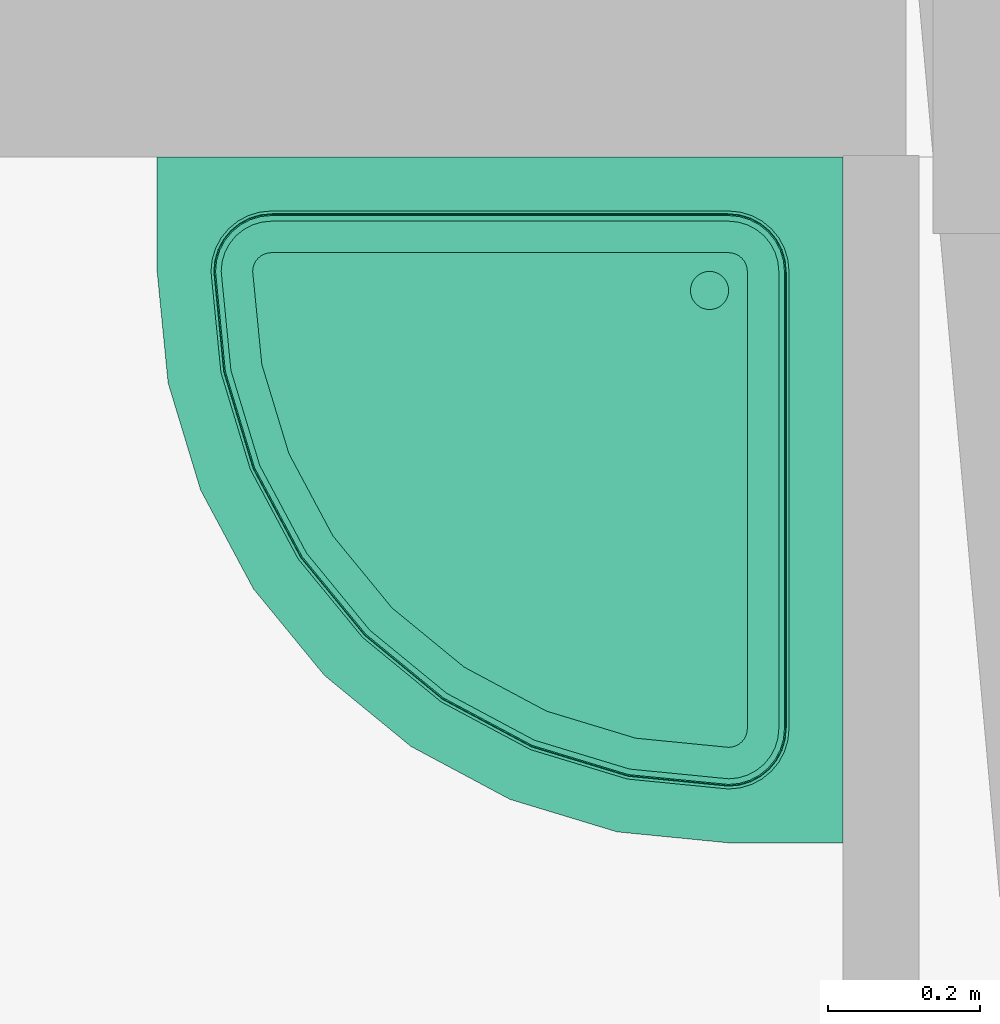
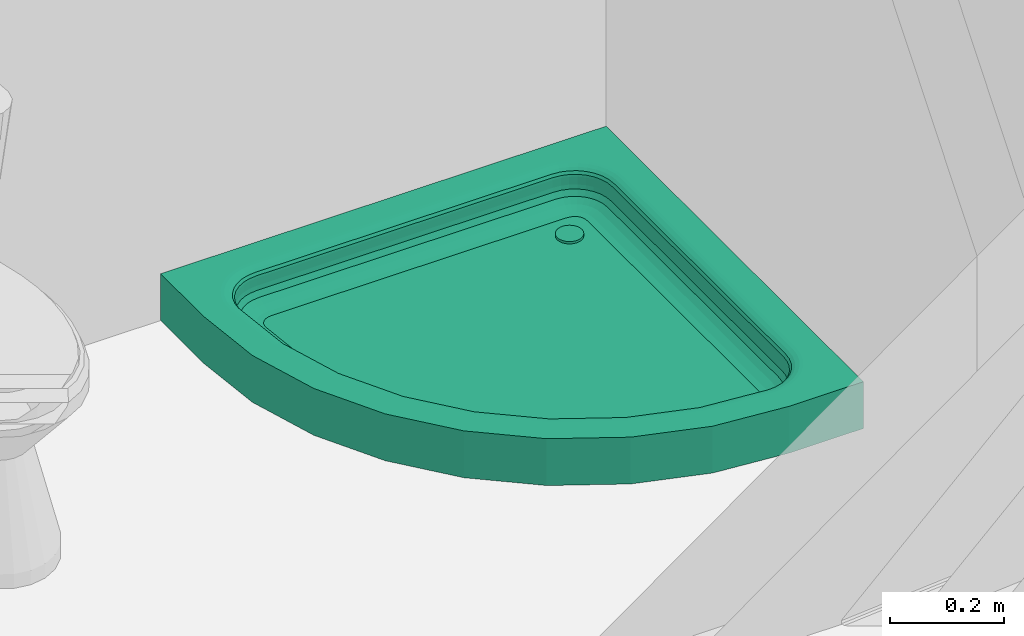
# One storey, part 30 of 36: 1 flow terminal.
"""IFC2X3 building model written with IfcOpenShell, lengths in millimetres."""

from ifc_helpers import new_model, entity, si_unit, converted_unit, money_unit, direction, frame, origin_with_axes, place, context, subcontext, project, spatial, open_shell, faceted_brep, surface_model, material, material_list, type_object, element, save


model = new_model("IFC2X3")

# Units and contexts
model_context = context("Model", 3, precision=1e-05, world=origin_with_axes(), true_north=direction((0.0, 1.0)))
body_context = subcontext(model_context, "Body", "Model", "MODEL_VIEW")
ifc_project = project(units=[si_unit("LENGTHUNIT", "METRE", prefix="MILLI"), si_unit("AREAUNIT", "SQUARE_METRE"), si_unit("VOLUMEUNIT", "CUBIC_METRE"), converted_unit("PLANEANGLEUNIT", "DEGREE", entity("IfcPlaneAngleMeasure", 0.0174532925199), si_unit("PLANEANGLEUNIT", "RADIAN"), dimensions=[0, 0, 0, 0, 0, 0, 0]), si_unit("SOLIDANGLEUNIT", "STERADIAN"), money_unit("USD"), converted_unit("TIMEUNIT", "Year", entity("IfcTimeMeasure", 31556926.0), si_unit("TIMEUNIT", "SECOND"), dimensions=[0, 0, 0, 0, 0, 0, 0]), si_unit("MASSUNIT", "GRAM"), si_unit("THERMODYNAMICTEMPERATUREUNIT", "DEGREE_CELSIUS"), si_unit("LUMINOUSINTENSITYUNIT", "LUMEN")], contexts=[model_context])

# Site, building, storey
site_placement = place(None, origin_with_axes())
site = spatial("IfcSite", under=ifc_project, at=site_placement, Name="Site", CompositionType="ELEMENT")
building_placement = place(site_placement, origin_with_axes())
building = spatial("IfcBuilding", under=site, at=building_placement, Name="Building", CompositionType="ELEMENT")
storey_placement = place(building_placement, frame((0.0, 0.0, -3400.0), z_axis=(0.0, 0.0, 1.0), x_axis=(1.0, 0.0, 0.0)))
storey = spatial("IfcBuildingStorey", under=building, at=storey_placement, Name="1KORRUS", CompositionType="ELEMENT", Elevation=-3400.0)

# Flow terminal
ifc_material = material(Name="Background")
ifc_material_list = material_list([ifc_material])
sanitary_terminal_type = type_object("IfcSanitaryTerminalType", Name="Shower Tray 19", PredefinedType="SHOWER")
flow_terminal_placement = place(storey_placement, frame((-54855.1823813, -5039.6041088, 0.0), z_axis=(0.0, 0.0, 1.0), x_axis=(-1.0, 0.0, 0.0)))
element("IfcFlowTerminal", 1, at=flow_terminal_placement, inside=storey, type_object=sanitary_terminal_type, material=ifc_material_list, Name="FU - 005", context=body_context, shape_type="SurfaceModel", body=[
    faceted_brep([(199.62, 170.659, 33.333), (198.492, 166.449, 33.333), (196.651, 162.5, 33.333), (194.151, 158.93, 33.333), (191.07, 155.849, 33.333), (187.5, 153.349, 33.333), (183.551, 151.508, 33.333), (179.341, 150.38, 33.333), (175.0, 150.0, 33.333), (170.659, 150.38, 33.333), (166.449, 151.508, 33.333), (162.5, 153.349, 33.333), (158.93, 155.849, 33.333), (155.849, 158.93, 33.333), (153.349, 162.5, 33.333), (151.508, 166.449, 33.333), (150.38, 170.659, 33.333), (150.0, 175.0, 33.333), (150.38, 179.341, 33.333), (151.508, 183.551, 33.333), (153.349, 187.5, 33.333), (155.849, 191.07, 33.333), (158.93, 194.151, 33.333), (162.5, 196.651, 33.333), (166.449, 198.492, 33.333), (170.659, 199.62, 33.333), (175.0, 200.0, 33.333), (179.341, 199.62, 33.333), (183.551, 198.492, 33.333), (187.5, 196.651, 33.333), (191.07, 194.151, 33.333), (194.151, 191.07, 33.333), (196.651, 187.5, 33.333), (198.492, 183.551, 33.333), (199.62, 179.341, 33.333), (200.0, 175.0, 33.333), (199.62, 170.659, 38.333), (198.492, 166.449, 38.333), (196.651, 162.5, 38.333), (194.151, 158.93, 38.333), (191.07, 155.849, 38.333), (187.5, 153.349, 38.333), (183.551, 151.508, 38.333), (179.341, 150.38, 38.333), (175.0, 150.0, 38.333), (170.659, 150.38, 38.333), (166.449, 151.508, 38.333), (162.5, 153.349, 38.333), (158.93, 155.849, 38.333), (155.849, 158.93, 38.333), (153.349, 162.5, 38.333), (151.508, 166.449, 38.333), (150.38, 170.659, 38.333), (150.0, 175.0, 38.333), (150.38, 179.341, 38.333), (151.508, 183.551, 38.333), (153.349, 187.5, 38.333), (155.849, 191.07, 38.333), (158.93, 194.151, 38.333), (162.5, 196.651, 38.333), (166.449, 198.492, 38.333), (170.659, 199.62, 38.333), (175.0, 200.0, 38.333), (179.341, 199.62, 38.333), (183.551, 198.492, 38.333), (187.5, 196.651, 38.333), (191.07, 194.151, 38.333), (194.151, 191.07, 38.333), (196.651, 187.5, 38.333), (198.492, 183.551, 38.333), (199.62, 179.341, 38.333), (200.0, 175.0, 38.333)], [[[0, 1, 2, 3, 4, 5, 6, 7, 8, 9, 10, 11, 12, 13, 14, 15, 16, 17, 18, 19, 20, 21, 22, 23, 24, 25, 26, 27, 28, 29, 30, 31, 32, 33, 34, 35]], [[1, 0, 36, 37]], [[2, 1, 37, 38]], [[3, 2, 38, 39]], [[4, 3, 39, 40]], [[5, 4, 40, 41]], [[6, 5, 41, 42]], [[7, 6, 42, 43]], [[8, 7, 43, 44]], [[9, 8, 44, 45]], [[10, 9, 45, 46]], [[11, 10, 46, 47]], [[12, 11, 47, 48]], [[13, 12, 48, 49]], [[14, 13, 49, 50]], [[15, 14, 50, 51]], [[16, 15, 51, 52]], [[17, 16, 52, 53]], [[18, 17, 53, 54]], [[19, 18, 54, 55]], [[20, 19, 55, 56]], [[21, 20, 56, 57]], [[22, 21, 57, 58]], [[23, 22, 58, 59]], [[24, 23, 59, 60]], [[25, 24, 60, 61]], [[26, 25, 61, 62]], [[27, 26, 62, 63]], [[28, 27, 63, 64]], [[29, 28, 64, 65]], [[30, 29, 65, 66]], [[31, 30, 66, 67]], [[32, 31, 67, 68]], [[33, 32, 68, 69]], [[34, 33, 69, 70]], [[35, 34, 70, 71]], [[0, 35, 71, 36]], [[36, 71, 70, 69, 68, 67, 66, 65, 64, 63, 62, 61, 60, 59, 58, 57, 56, 55, 54, 53, 52, 51, 50, 49, 48, 47, 46, 45, 44, 43, 42, 41, 40, 39, 38, 37]]]),
    faceted_brep([(153.685, 125.0, 33.333), (153.046, 112.01, 34.346), (746.954, 112.01, 34.346), (746.315, 125.0, 33.333), (151.818, 87.0, 36.0), (150.0, 50.0, 100.0), (150.319, 56.495, 99.493), (150.707, 64.394, 97.038), (151.01, 70.557, 92.929), (151.191, 74.24, 87.663), (151.228, 75.0, 83.333), (151.228, 75.0, 66.667), (151.303, 76.519, 58.007), (151.665, 83.886, 47.475), (152.27, 96.212, 39.257), (747.73, 96.212, 39.257), (757.353, 113.034, 34.346), (754.806, 125.836, 33.333), (748.182, 87.0, 36.0), (750.0, 50.0, 100.0), (749.681, 56.495, 99.493), (749.293, 64.394, 97.038), (748.99, 70.557, 92.929), (748.809, 74.24, 87.663), (748.772, 75.0, 83.333), (748.772, 75.0, 66.667), (748.697, 76.519, 58.007), (748.335, 83.886, 47.475), (760.45, 97.465, 39.257), (764.423, 115.179, 34.346), (759.428, 127.238, 33.333), (762.256, 88.386, 36.0), (769.509, 51.921, 100.0), (768.236, 58.322, 99.493), (766.687, 66.107, 97.038), (765.479, 72.181, 92.929), (764.757, 75.811, 87.663), (764.608, 76.56, 83.333), (764.608, 76.56, 66.667), (764.31, 78.057, 58.007), (762.866, 85.317, 47.475), (770.498, 100.513, 39.257), (770.939, 118.662, 34.346), (763.688, 129.515, 33.333), (774.041, 91.961, 36.0), (788.268, 57.612, 100.0), (785.771, 63.642, 99.493), (782.733, 70.975, 97.038), (780.363, 76.696, 92.929), (778.947, 80.115, 87.663), (778.655, 80.821, 83.333), (778.655, 80.821, 66.667), (778.071, 82.231, 58.007), (775.238, 89.07, 47.475), (779.759, 105.463, 39.257), (776.651, 123.349, 34.346), (767.421, 132.579, 33.333), (784.901, 97.766, 36.0), (805.557, 66.853, 100.0), (801.931, 72.28, 99.493), (797.521, 78.879, 97.038), (794.081, 84.028, 92.929), (792.025, 87.105, 87.663), (791.601, 87.74, 83.333), (791.601, 87.74, 66.667), (790.753, 89.009, 58.007), (786.64, 95.165, 47.475), (787.876, 112.124, 39.257), (781.338, 129.061, 34.346), (770.485, 136.312, 33.333), (794.421, 105.579, 36.0), (820.711, 79.289, 100.0), (816.096, 83.904, 99.493), (810.483, 89.517, 97.038), (806.104, 93.896, 92.929), (803.487, 96.513, 87.663), (802.947, 97.053, 83.333), (802.947, 97.053, 66.667), (801.868, 98.132, 58.007), (796.634, 103.366, 47.475), (794.537, 120.241, 39.257), (784.821, 135.577, 34.346), (772.762, 140.572, 33.333), (802.234, 115.099, 36.0), (833.147, 94.443, 100.0), (827.72, 98.069, 99.493), (821.121, 102.479, 97.038), (815.972, 105.919, 92.929), (812.895, 107.975, 87.663), (812.26, 108.399, 83.333), (812.26, 108.399, 66.667), (810.991, 109.247, 58.007), (804.835, 113.36, 47.475), (799.487, 129.502, 39.257), (786.966, 142.647, 34.346), (774.164, 145.194, 33.333), (808.039, 125.959, 36.0), (842.388, 111.732, 100.0), (836.358, 114.229, 99.493), (829.025, 117.267, 97.038), (823.304, 119.637, 92.929), (819.885, 121.053, 87.663), (819.179, 121.345, 83.333), (819.179, 121.345, 66.667), (817.769, 121.929, 58.007), (810.93, 124.762, 47.475), (802.535, 139.55, 39.257), (787.69, 150.0, 34.346), (774.637, 150.0, 33.333), (811.614, 137.744, 36.0), (848.079, 130.491, 100.0), (841.678, 131.764, 99.493), (833.893, 133.313, 97.038), (827.819, 134.521, 92.929), (824.189, 135.243, 87.663), (823.44, 135.392, 83.333), (823.44, 135.392, 66.667), (821.943, 135.69, 58.007), (814.683, 137.134, 47.475), (803.564, 150.0, 39.257), (775.437, 274.407, 34.346), (762.635, 271.861, 33.333), (812.821, 150.0, 36.0), (850.0, 150.0, 100.0), (843.474, 150.0, 99.493), (835.536, 150.0, 97.038), (829.344, 150.0, 92.929), (825.643, 150.0, 87.663), (824.879, 150.0, 83.333), (824.879, 150.0, 66.667), (823.353, 150.0, 58.007), (815.95, 150.0, 47.475), (791.006, 277.504, 39.257), (739.149, 394.033, 34.346), (727.089, 389.038, 33.333), (800.085, 279.31, 36.0), (836.55, 286.563, 100.0), (830.149, 285.29, 99.493), (822.364, 283.742, 97.038), (816.29, 282.533, 92.929), (812.66, 281.811, 87.663), (811.911, 281.662, 83.333), (811.911, 281.662, 66.667), (810.414, 281.365, 58.007), (803.154, 279.92, 47.475), (753.815, 400.108, 39.257), (680.22, 504.282, 34.346), (669.367, 497.03, 33.333), (762.367, 403.651, 36.0), (796.716, 417.878, 100.0), (790.686, 415.381, 99.493), (783.353, 412.343, 97.038), (777.632, 409.974, 92.929), (774.212, 408.557, 87.663), (773.507, 408.265, 83.333), (773.507, 408.265, 66.667), (772.097, 407.681, 58.007), (765.258, 404.848, 47.475), (693.419, 513.101, 39.257), (600.915, 600.915, 34.346), (591.685, 591.685, 33.333), (701.115, 518.244, 36.0), (732.029, 538.899, 100.0), (726.602, 535.273, 99.493), (720.003, 530.864, 97.038), (714.854, 527.423, 92.929), (711.776, 525.367, 87.663), (711.141, 524.943, 83.333), (711.141, 524.943, 66.667), (709.872, 524.095, 58.007), (703.717, 519.982, 47.475), (612.14, 612.14, 39.257), (504.282, 680.22, 34.346), (497.03, 669.367, 33.333), (618.685, 618.685, 36.0), (644.975, 644.975, 100.0), (640.36, 640.36, 99.493), (634.747, 634.747, 97.038), (630.368, 630.368, 92.929), (627.752, 627.752, 87.663), (627.212, 627.212, 83.333), (627.212, 627.212, 66.667), (626.132, 626.132, 58.007), (620.898, 620.898, 47.475), (513.101, 693.419, 39.257), (394.033, 739.149, 34.346), (389.038, 727.089, 33.333), (518.244, 701.115, 36.0), (538.899, 732.029, 100.0), (535.273, 726.602, 99.493), (530.864, 720.003, 97.038), (527.423, 714.854, 92.929), (525.367, 711.776, 87.663), (524.943, 711.141, 83.333), (524.943, 711.141, 66.667), (524.095, 709.872, 58.007), (519.982, 703.717, 47.475), (400.108, 753.815, 39.257), (274.407, 775.437, 34.346), (271.861, 762.635, 33.333), (403.651, 762.367, 36.0), (417.878, 796.716, 100.0), (415.381, 790.686, 99.493), (412.343, 783.353, 97.038), (409.974, 777.632, 92.929), (408.557, 774.212, 87.663), (408.265, 773.507, 83.333), (408.265, 773.507, 66.667), (407.681, 772.097, 58.007), (404.848, 765.258, 47.475), (277.504, 791.006, 39.257), (150.0, 787.69, 34.346), (150.0, 774.637, 33.333), (279.31, 800.085, 36.0), (286.563, 836.55, 100.0), (285.29, 830.149, 99.493), (283.742, 822.364, 97.038), (282.533, 816.29, 92.929), (281.811, 812.66, 87.663), (281.662, 811.911, 83.333), (281.662, 811.911, 66.667), (281.365, 810.414, 58.007), (279.92, 803.154, 47.475), (150.0, 803.564, 39.257), (142.647, 786.966, 34.346), (145.194, 774.164, 33.333), (150.0, 812.821, 36.0), (150.0, 850.0, 100.0), (150.0, 843.474, 99.493), (150.0, 835.536, 97.038), (150.0, 829.344, 92.929), (150.0, 825.643, 87.663), (150.0, 824.879, 83.333), (150.0, 824.879, 66.667), (150.0, 823.353, 58.007), (150.0, 815.95, 47.475), (139.55, 802.535, 39.257), (135.577, 784.821, 34.346), (140.572, 772.762, 33.333), (137.744, 811.614, 36.0), (130.491, 848.079, 100.0), (131.764, 841.678, 99.493), (133.313, 833.893, 97.038), (134.521, 827.819, 92.929), (135.243, 824.189, 87.663), (135.392, 823.44, 83.333), (135.392, 823.44, 66.667), (135.69, 821.943, 58.007), (137.134, 814.683, 47.475), (129.502, 799.487, 39.257), (129.061, 781.338, 34.346), (136.312, 770.485, 33.333), (125.959, 808.039, 36.0), (111.732, 842.388, 100.0), (114.229, 836.358, 99.493), (117.267, 829.025, 97.038), (119.637, 823.304, 92.929), (121.053, 819.885, 87.663), (121.345, 819.179, 83.333), (121.345, 819.179, 66.667), (121.929, 817.769, 58.007), (124.762, 810.93, 47.475), (120.241, 794.537, 39.257), (123.349, 776.651, 34.346), (132.579, 767.421, 33.333), (115.099, 802.234, 36.0), (94.443, 833.147, 100.0), (98.069, 827.72, 99.493), (102.479, 821.121, 97.038), (105.919, 815.972, 92.929), (107.975, 812.895, 87.663), (108.399, 812.26, 83.333), (108.399, 812.26, 66.667), (109.247, 810.991, 58.007), (113.36, 804.835, 47.475), (112.124, 787.876, 39.257), (118.662, 770.939, 34.346), (129.515, 763.688, 33.333), (105.579, 794.421, 36.0), (79.289, 820.711, 100.0), (83.904, 816.096, 99.493), (89.517, 810.483, 97.038), (93.896, 806.104, 92.929), (96.513, 803.487, 87.663), (97.053, 802.947, 83.333), (97.053, 802.947, 66.667), (98.132, 801.868, 58.007), (103.366, 796.634, 47.475), (105.463, 779.759, 39.257), (115.179, 764.423, 34.346), (127.238, 759.428, 33.333), (97.766, 784.901, 36.0), (66.853, 805.557, 100.0), (72.28, 801.931, 99.493), (78.879, 797.521, 97.038), (84.028, 794.081, 92.929), (87.105, 792.025, 87.663), (87.74, 791.601, 83.333), (87.74, 791.601, 66.667), (89.009, 790.753, 58.007), (95.165, 786.64, 47.475), (100.513, 770.498, 39.257), (113.034, 757.353, 34.346), (125.836, 754.806, 33.333), (91.961, 774.041, 36.0), (57.612, 788.268, 100.0), (63.642, 785.771, 99.493), (70.975, 782.733, 97.038), (76.696, 780.363, 92.929), (80.115, 778.947, 87.663), (80.821, 778.655, 83.333), (80.821, 778.655, 66.667), (82.231, 778.071, 58.007), (89.07, 775.238, 47.475), (97.465, 760.45, 39.257), (112.01, 746.954, 34.346), (125.0, 746.315, 33.333), (88.386, 762.256, 36.0), (51.921, 769.509, 100.0), (58.322, 768.236, 99.493), (66.107, 766.687, 97.038), (72.181, 765.479, 92.929), (75.811, 764.757, 87.663), (76.56, 764.608, 83.333), (76.56, 764.608, 66.667), (78.057, 764.31, 58.007), (85.317, 762.866, 47.475), (96.212, 747.73, 39.257), (112.01, 153.046, 34.346), (125.0, 153.685, 33.333), (87.0, 748.182, 36.0), (50.0, 750.0, 100.0), (56.495, 749.681, 99.493), (64.394, 749.293, 97.038), (70.557, 748.99, 92.929), (74.24, 748.809, 87.663), (75.0, 748.772, 83.333), (75.0, 748.772, 66.667), (76.519, 748.697, 58.007), (83.886, 748.335, 47.475), (96.212, 152.27, 39.257), (113.034, 142.647, 34.346), (125.836, 145.194, 33.333), (87.0, 151.818, 36.0), (50.0, 150.0, 100.0), (56.495, 150.319, 99.493), (64.394, 150.707, 97.038), (70.557, 151.01, 92.929), (74.24, 151.191, 87.663), (75.0, 151.228, 83.333), (75.0, 151.228, 66.667), (76.519, 151.303, 58.007), (83.886, 151.665, 47.475), (97.465, 139.55, 39.257), (115.179, 135.577, 34.346), (127.238, 140.572, 33.333), (88.386, 137.744, 36.0), (51.921, 130.491, 100.0), (58.322, 131.764, 99.493), (66.107, 133.313, 97.038), (72.181, 134.521, 92.929), (75.811, 135.243, 87.663), (76.56, 135.392, 83.333), (76.56, 135.392, 66.667), (78.057, 135.69, 58.007), (85.317, 137.134, 47.475), (100.513, 129.502, 39.257), (118.662, 129.061, 34.346), (129.515, 136.312, 33.333), (91.961, 125.959, 36.0), (57.612, 111.732, 100.0), (63.642, 114.229, 99.493), (70.975, 117.267, 97.038), (76.696, 119.637, 92.929), (80.115, 121.053, 87.663), (80.821, 121.345, 83.333), (80.821, 121.345, 66.667), (82.231, 121.929, 58.007), (89.07, 124.762, 47.475), (105.463, 120.241, 39.257), (123.349, 123.349, 34.346), (132.579, 132.579, 33.333), (97.766, 115.099, 36.0), (66.853, 94.443, 100.0), (72.28, 98.069, 99.493), (78.879, 102.479, 97.038), (84.028, 105.919, 92.929), (87.105, 107.975, 87.663), (87.74, 108.399, 83.333), (87.74, 108.399, 66.667), (89.009, 109.247, 58.007), (95.165, 113.36, 47.475), (112.124, 112.124, 39.257), (129.061, 118.662, 34.346), (136.312, 129.515, 33.333), (105.579, 105.579, 36.0), (79.289, 79.289, 100.0), (83.904, 83.904, 99.493), (89.517, 89.517, 97.038), (93.896, 93.896, 92.929), (96.513, 96.513, 87.663), (97.053, 97.053, 83.333), (97.053, 97.053, 66.667), (98.132, 98.132, 58.007), (103.366, 103.366, 47.475), (120.241, 105.463, 39.257), (135.577, 115.179, 34.346), (140.572, 127.238, 33.333), (115.099, 97.766, 36.0), (94.443, 66.853, 100.0), (98.069, 72.28, 99.493), (102.479, 78.879, 97.038), (105.919, 84.028, 92.929), (107.975, 87.105, 87.663), (108.399, 87.74, 83.333), (108.399, 87.74, 66.667), (109.247, 89.009, 58.007), (113.36, 95.165, 47.475), (129.502, 100.513, 39.257), (142.647, 113.034, 34.346), (145.194, 125.836, 33.333), (125.959, 91.961, 36.0), (111.732, 57.612, 100.0), (114.229, 63.642, 99.493), (117.267, 70.975, 97.038), (119.637, 76.696, 92.929), (121.053, 80.115, 87.663), (121.345, 80.821, 83.333), (121.345, 80.821, 66.667), (121.929, 82.231, 58.007), (124.762, 89.07, 47.475), (139.55, 97.465, 39.257), (153.046, 112.01, 34.346), (153.685, 125.0, 33.333), (137.744, 88.386, 36.0), (130.491, 51.921, 100.0), (131.764, 58.322, 99.493), (133.313, 66.107, 97.038), (134.521, 72.181, 92.929), (135.243, 75.811, 87.663), (135.392, 76.56, 83.333), (135.392, 76.56, 66.667), (135.69, 78.057, 58.007), (137.134, 85.317, 47.475), (152.27, 96.212, 39.257), (151.665, 83.886, 47.475), (151.303, 76.519, 58.007), (151.228, 75.0, 66.667), (151.228, 75.0, 83.333), (151.191, 74.24, 87.663), (151.01, 70.557, 92.929), (150.707, 64.394, 97.038), (150.319, 56.495, 99.493), (150.0, 50.0, 100.0), (151.818, 87.0, 36.0)], [[[0, 1, 2, 3]], [[0, 4, 5, 6, 7, 8, 9, 10, 11, 12, 13, 14, 1]], [[1, 14, 15, 2]], [[3, 2, 16, 17]], [[4, 0, 3, 18]], [[5, 4, 18, 19]], [[6, 5, 19, 20]], [[7, 6, 20, 21]], [[8, 7, 21, 22]], [[9, 8, 22, 23]], [[10, 9, 23, 24]], [[11, 10, 24, 25]], [[12, 11, 25, 26]], [[13, 12, 26, 27]], [[14, 13, 27, 15]], [[2, 15, 28, 16]], [[17, 16, 29, 30]], [[18, 3, 17, 31]], [[19, 18, 31, 32]], [[20, 19, 32, 33]], [[21, 20, 33, 34]], [[22, 21, 34, 35]], [[23, 22, 35, 36]], [[24, 23, 36, 37]], [[25, 24, 37, 38]], [[26, 25, 38, 39]], [[27, 26, 39, 40]], [[15, 27, 40, 28]], [[16, 28, 41, 29]], [[30, 29, 42, 43]], [[31, 17, 30, 44]], [[32, 31, 44, 45]], [[33, 32, 45, 46]], [[34, 33, 46, 47]], [[35, 34, 47, 48]], [[36, 35, 48, 49]], [[37, 36, 49, 50]], [[38, 37, 50, 51]], [[39, 38, 51, 52]], [[40, 39, 52, 53]], [[28, 40, 53, 41]], [[29, 41, 54, 42]], [[43, 42, 55, 56]], [[44, 30, 43, 57]], [[45, 44, 57, 58]], [[46, 45, 58, 59]], [[47, 46, 59, 60]], [[48, 47, 60, 61]], [[49, 48, 61, 62]], [[50, 49, 62, 63]], [[51, 50, 63, 64]], [[52, 51, 64, 65]], [[53, 52, 65, 66]], [[41, 53, 66, 54]], [[42, 54, 67, 55]], [[56, 55, 68, 69]], [[57, 43, 56, 70]], [[58, 57, 70, 71]], [[59, 58, 71, 72]], [[60, 59, 72, 73]], [[61, 60, 73, 74]], [[62, 61, 74, 75]], [[63, 62, 75, 76]], [[64, 63, 76, 77]], [[65, 64, 77, 78]], [[66, 65, 78, 79]], [[54, 66, 79, 67]], [[55, 67, 80, 68]], [[69, 68, 81, 82]], [[70, 56, 69, 83]], [[71, 70, 83, 84]], [[72, 71, 84, 85]], [[73, 72, 85, 86]], [[74, 73, 86, 87]], [[75, 74, 87, 88]], [[76, 75, 88, 89]], [[77, 76, 89, 90]], [[78, 77, 90, 91]], [[79, 78, 91, 92]], [[67, 79, 92, 80]], [[68, 80, 93, 81]], [[82, 81, 94, 95]], [[83, 69, 82, 96]], [[84, 83, 96, 97]], [[85, 84, 97, 98]], [[86, 85, 98, 99]], [[87, 86, 99, 100]], [[88, 87, 100, 101]], [[89, 88, 101, 102]], [[90, 89, 102, 103]], [[91, 90, 103, 104]], [[92, 91, 104, 105]], [[80, 92, 105, 93]], [[81, 93, 106, 94]], [[95, 94, 107, 108]], [[96, 82, 95, 109]], [[97, 96, 109, 110]], [[98, 97, 110, 111]], [[99, 98, 111, 112]], [[100, 99, 112, 113]], [[101, 100, 113, 114]], [[102, 101, 114, 115]], [[103, 102, 115, 116]], [[104, 103, 116, 117]], [[105, 104, 117, 118]], [[93, 105, 118, 106]], [[94, 106, 119, 107]], [[108, 107, 120, 121]], [[109, 95, 108, 122]], [[110, 109, 122, 123]], [[111, 110, 123, 124]], [[112, 111, 124, 125]], [[113, 112, 125, 126]], [[114, 113, 126, 127]], [[115, 114, 127, 128]], [[116, 115, 128, 129]], [[117, 116, 129, 130]], [[118, 117, 130, 131]], [[106, 118, 131, 119]], [[107, 119, 132, 120]], [[121, 120, 133, 134]], [[122, 108, 121, 135]], [[123, 122, 135, 136]], [[124, 123, 136, 137]], [[125, 124, 137, 138]], [[126, 125, 138, 139]], [[127, 126, 139, 140]], [[128, 127, 140, 141]], [[129, 128, 141, 142]], [[130, 129, 142, 143]], [[131, 130, 143, 144]], [[119, 131, 144, 132]], [[120, 132, 145, 133]], [[134, 133, 146, 147]], [[135, 121, 134, 148]], [[136, 135, 148, 149]], [[137, 136, 149, 150]], [[138, 137, 150, 151]], [[139, 138, 151, 152]], [[140, 139, 152, 153]], [[141, 140, 153, 154]], [[142, 141, 154, 155]], [[143, 142, 155, 156]], [[144, 143, 156, 157]], [[132, 144, 157, 145]], [[133, 145, 158, 146]], [[147, 146, 159, 160]], [[148, 134, 147, 161]], [[149, 148, 161, 162]], [[150, 149, 162, 163]], [[151, 150, 163, 164]], [[152, 151, 164, 165]], [[153, 152, 165, 166]], [[154, 153, 166, 167]], [[155, 154, 167, 168]], [[156, 155, 168, 169]], [[157, 156, 169, 170]], [[145, 157, 170, 158]], [[146, 158, 171, 159]], [[160, 159, 172, 173]], [[161, 147, 160, 174]], [[162, 161, 174, 175]], [[163, 162, 175, 176]], [[164, 163, 176, 177]], [[165, 164, 177, 178]], [[166, 165, 178, 179]], [[167, 166, 179, 180]], [[168, 167, 180, 181]], [[169, 168, 181, 182]], [[170, 169, 182, 183]], [[158, 170, 183, 171]], [[159, 171, 184, 172]], [[173, 172, 185, 186]], [[174, 160, 173, 187]], [[175, 174, 187, 188]], [[176, 175, 188, 189]], [[177, 176, 189, 190]], [[178, 177, 190, 191]], [[179, 178, 191, 192]], [[180, 179, 192, 193]], [[181, 180, 193, 194]], [[182, 181, 194, 195]], [[183, 182, 195, 196]], [[171, 183, 196, 184]], [[172, 184, 197, 185]], [[186, 185, 198, 199]], [[187, 173, 186, 200]], [[188, 187, 200, 201]], [[189, 188, 201, 202]], [[190, 189, 202, 203]], [[191, 190, 203, 204]], [[192, 191, 204, 205]], [[193, 192, 205, 206]], [[194, 193, 206, 207]], [[195, 194, 207, 208]], [[196, 195, 208, 209]], [[184, 196, 209, 197]], [[185, 197, 210, 198]], [[199, 198, 211, 212]], [[200, 186, 199, 213]], [[201, 200, 213, 214]], [[202, 201, 214, 215]], [[203, 202, 215, 216]], [[204, 203, 216, 217]], [[205, 204, 217, 218]], [[206, 205, 218, 219]], [[207, 206, 219, 220]], [[208, 207, 220, 221]], [[209, 208, 221, 222]], [[197, 209, 222, 210]], [[198, 210, 223, 211]], [[212, 211, 224, 225]], [[213, 199, 212, 226]], [[214, 213, 226, 227]], [[215, 214, 227, 228]], [[216, 215, 228, 229]], [[217, 216, 229, 230]], [[218, 217, 230, 231]], [[219, 218, 231, 232]], [[220, 219, 232, 233]], [[221, 220, 233, 234]], [[222, 221, 234, 235]], [[210, 222, 235, 223]], [[211, 223, 236, 224]], [[225, 224, 237, 238]], [[226, 212, 225, 239]], [[227, 226, 239, 240]], [[228, 227, 240, 241]], [[229, 228, 241, 242]], [[230, 229, 242, 243]], [[231, 230, 243, 244]], [[232, 231, 244, 245]], [[233, 232, 245, 246]], [[234, 233, 246, 247]], [[235, 234, 247, 248]], [[223, 235, 248, 236]], [[224, 236, 249, 237]], [[238, 237, 250, 251]], [[239, 225, 238, 252]], [[240, 239, 252, 253]], [[241, 240, 253, 254]], [[242, 241, 254, 255]], [[243, 242, 255, 256]], [[244, 243, 256, 257]], [[245, 244, 257, 258]], [[246, 245, 258, 259]], [[247, 246, 259, 260]], [[248, 247, 260, 261]], [[236, 248, 261, 249]], [[237, 249, 262, 250]], [[251, 250, 263, 264]], [[252, 238, 251, 265]], [[253, 252, 265, 266]], [[254, 253, 266, 267]], [[255, 254, 267, 268]], [[256, 255, 268, 269]], [[257, 256, 269, 270]], [[258, 257, 270, 271]], [[259, 258, 271, 272]], [[260, 259, 272, 273]], [[261, 260, 273, 274]], [[249, 261, 274, 262]], [[250, 262, 275, 263]], [[264, 263, 276, 277]], [[265, 251, 264, 278]], [[266, 265, 278, 279]], [[267, 266, 279, 280]], [[268, 267, 280, 281]], [[269, 268, 281, 282]], [[270, 269, 282, 283]], [[271, 270, 283, 284]], [[272, 271, 284, 285]], [[273, 272, 285, 286]], [[274, 273, 286, 287]], [[262, 274, 287, 275]], [[263, 275, 288, 276]], [[277, 276, 289, 290]], [[278, 264, 277, 291]], [[279, 278, 291, 292]], [[280, 279, 292, 293]], [[281, 280, 293, 294]], [[282, 281, 294, 295]], [[283, 282, 295, 296]], [[284, 283, 296, 297]], [[285, 284, 297, 298]], [[286, 285, 298, 299]], [[287, 286, 299, 300]], [[275, 287, 300, 288]], [[276, 288, 301, 289]], [[290, 289, 302, 303]], [[291, 277, 290, 304]], [[292, 291, 304, 305]], [[293, 292, 305, 306]], [[294, 293, 306, 307]], [[295, 294, 307, 308]], [[296, 295, 308, 309]], [[297, 296, 309, 310]], [[298, 297, 310, 311]], [[299, 298, 311, 312]], [[300, 299, 312, 313]], [[288, 300, 313, 301]], [[289, 301, 314, 302]], [[303, 302, 315, 316]], [[304, 290, 303, 317]], [[305, 304, 317, 318]], [[306, 305, 318, 319]], [[307, 306, 319, 320]], [[308, 307, 320, 321]], [[309, 308, 321, 322]], [[310, 309, 322, 323]], [[311, 310, 323, 324]], [[312, 311, 324, 325]], [[313, 312, 325, 326]], [[301, 313, 326, 314]], [[302, 314, 327, 315]], [[316, 315, 328, 329]], [[317, 303, 316, 330]], [[318, 317, 330, 331]], [[319, 318, 331, 332]], [[320, 319, 332, 333]], [[321, 320, 333, 334]], [[322, 321, 334, 335]], [[323, 322, 335, 336]], [[324, 323, 336, 337]], [[325, 324, 337, 338]], [[326, 325, 338, 339]], [[314, 326, 339, 327]], [[315, 327, 340, 328]], [[329, 328, 341, 342]], [[330, 316, 329, 343]], [[331, 330, 343, 344]], [[332, 331, 344, 345]], [[333, 332, 345, 346]], [[334, 333, 346, 347]], [[335, 334, 347, 348]], [[336, 335, 348, 349]], [[337, 336, 349, 350]], [[338, 337, 350, 351]], [[339, 338, 351, 352]], [[327, 339, 352, 340]], [[328, 340, 353, 341]], [[342, 341, 354, 355]], [[343, 329, 342, 356]], [[344, 343, 356, 357]], [[345, 344, 357, 358]], [[346, 345, 358, 359]], [[347, 346, 359, 360]], [[348, 347, 360, 361]], [[349, 348, 361, 362]], [[350, 349, 362, 363]], [[351, 350, 363, 364]], [[352, 351, 364, 365]], [[340, 352, 365, 353]], [[341, 353, 366, 354]], [[355, 354, 367, 368]], [[356, 342, 355, 369]], [[357, 356, 369, 370]], [[358, 357, 370, 371]], [[359, 358, 371, 372]], [[360, 359, 372, 373]], [[361, 360, 373, 374]], [[362, 361, 374, 375]], [[363, 362, 375, 376]], [[364, 363, 376, 377]], [[365, 364, 377, 378]], [[353, 365, 378, 366]], [[354, 366, 379, 367]], [[368, 367, 380, 381]], [[369, 355, 368, 382]], [[370, 369, 382, 383]], [[371, 370, 383, 384]], [[372, 371, 384, 385]], [[373, 372, 385, 386]], [[374, 373, 386, 387]], [[375, 374, 387, 388]], [[376, 375, 388, 389]], [[377, 376, 389, 390]], [[378, 377, 390, 391]], [[366, 378, 391, 379]], [[367, 379, 392, 380]], [[381, 380, 393, 394]], [[382, 368, 381, 395]], [[383, 382, 395, 396]], [[384, 383, 396, 397]], [[385, 384, 397, 398]], [[386, 385, 398, 399]], [[387, 386, 399, 400]], [[388, 387, 400, 401]], [[389, 388, 401, 402]], [[390, 389, 402, 403]], [[391, 390, 403, 404]], [[379, 391, 404, 392]], [[380, 392, 405, 393]], [[394, 393, 406, 407]], [[395, 381, 394, 408]], [[396, 395, 408, 409]], [[397, 396, 409, 410]], [[398, 397, 410, 411]], [[399, 398, 411, 412]], [[400, 399, 412, 413]], [[401, 400, 413, 414]], [[402, 401, 414, 415]], [[403, 402, 415, 416]], [[404, 403, 416, 417]], [[392, 404, 417, 405]], [[393, 405, 418, 406]], [[407, 406, 419, 420]], [[408, 394, 407, 421]], [[409, 408, 421, 422]], [[410, 409, 422, 423]], [[411, 410, 423, 424]], [[412, 411, 424, 425]], [[413, 412, 425, 426]], [[414, 413, 426, 427]], [[415, 414, 427, 428]], [[416, 415, 428, 429]], [[417, 416, 429, 430]], [[405, 417, 430, 418]], [[406, 418, 431, 419]], [[420, 419, 432, 433]], [[421, 407, 420, 434]], [[422, 421, 434, 435]], [[423, 422, 435, 436]], [[424, 423, 436, 437]], [[425, 424, 437, 438]], [[426, 425, 438, 439]], [[427, 426, 439, 440]], [[428, 427, 440, 441]], [[429, 428, 441, 442]], [[430, 429, 442, 443]], [[418, 430, 443, 431]], [[419, 431, 444, 432]], [[433, 432, 444, 445, 446, 447, 448, 449, 450, 451, 452, 453, 454]], [[434, 420, 433, 454]], [[435, 434, 454, 453]], [[436, 435, 453, 452]], [[437, 436, 452, 451]], [[438, 437, 451, 450]], [[439, 438, 450, 449]], [[440, 439, 449, 448]], [[441, 440, 448, 447]], [[442, 441, 447, 446]], [[443, 442, 446, 445]], [[431, 443, 445, 444]]]),
    surface_model("IfcShellBasedSurfaceModel", [(900.0, 0.0, 100.0), (0.0, 0.0, 100.0), (0.0, 900.0, 100.0), (150.0, 900.0, 100.0), (296.318, 885.589, 100.0), (437.013, 842.91, 100.0), (566.678, 773.602, 100.0), (680.33, 680.33, 100.0), (773.602, 566.678, 100.0), (842.91, 437.013, 100.0), (885.589, 296.318, 100.0), (900.0, 150.0, 100.0), (150.0, 50.0, 100.0), (750.0, 50.0, 100.0), (769.509, 51.921, 100.0), (788.268, 57.612, 100.0), (805.557, 66.853, 100.0), (820.711, 79.289, 100.0), (833.147, 94.443, 100.0), (842.388, 111.732, 100.0), (848.079, 130.491, 100.0), (850.0, 150.0, 100.0), (836.55, 286.563, 100.0), (796.716, 417.878, 100.0), (732.029, 538.899, 100.0), (644.975, 644.975, 100.0), (538.899, 732.029, 100.0), (417.878, 796.716, 100.0), (286.563, 836.55, 100.0), (150.0, 850.0, 100.0), (130.491, 848.079, 100.0), (111.732, 842.388, 100.0), (94.443, 833.147, 100.0), (79.289, 820.711, 100.0), (66.853, 805.557, 100.0), (57.612, 788.268, 100.0), (51.921, 769.509, 100.0), (50.0, 750.0, 100.0), (50.0, 150.0, 100.0), (51.921, 130.491, 100.0), (57.612, 111.732, 100.0), (66.853, 94.443, 100.0), (79.289, 79.289, 100.0), (94.443, 66.853, 100.0), (111.732, 57.612, 100.0), (130.491, 51.921, 100.0), (150.0, 50.0, 100.0), (750.0, 50.0, 100.0)], [open_shell([[[0, 1, 2, 3, 4, 5, 6, 7, 8, 9, 10, 11], [12, 13, 14, 15, 16, 17, 18, 19, 20, 21, 22, 23, 24, 25, 26, 27, 28, 29, 30, 31, 32, 33, 34, 35, 36, 37, 38, 39, 40, 41, 42, 43, 44, 45, 46, 47]]])]),
    surface_model("IfcShellBasedSurfaceModel", [(150.0, 50.0, 33.333), (750.0, 50.0, 33.333), (150.0, 50.0, 33.333), (130.491, 51.921, 33.333), (111.732, 57.612, 33.333), (94.443, 66.853, 33.333), (79.289, 79.289, 33.333), (66.853, 94.443, 33.333), (57.612, 111.732, 33.333), (51.921, 130.491, 33.333), (50.0, 150.0, 33.333), (50.0, 750.0, 33.333), (51.921, 769.509, 33.333), (57.612, 788.268, 33.333), (66.853, 805.557, 33.333), (79.289, 820.711, 33.333), (94.443, 833.147, 33.333), (111.732, 842.388, 33.333), (130.491, 848.079, 33.333), (150.0, 850.0, 33.333), (286.563, 836.55, 33.333), (417.878, 796.716, 33.333), (538.899, 732.029, 33.333), (644.975, 644.975, 33.333), (732.029, 538.899, 33.333), (796.716, 417.878, 33.333), (836.55, 286.563, 33.333), (850.0, 150.0, 33.333), (848.079, 130.491, 33.333), (842.388, 111.732, 33.333), (833.147, 94.443, 33.333), (820.711, 79.289, 33.333), (805.557, 66.853, 33.333), (788.268, 57.612, 33.333), (769.509, 51.921, 33.333), (750.0, 50.0, 33.333)], [open_shell([[[0, 1, 2, 3, 4, 5, 6, 7, 8, 9, 10, 11, 12, 13, 14, 15, 16, 17, 18, 19, 20, 21, 22, 23, 24, 25, 26, 27, 28, 29, 30, 31, 32, 33, 34, 35]]])]),
    surface_model("IfcShellBasedSurfaceModel", [(900.0, 0.0, 0.0), (900.0, 150.0, 0.0), (900.0, 150.0, 100.0), (900.0, 0.0, 100.0), (0.0, 0.0, 0.0), (0.0, 900.0, 0.0), (150.0, 900.0, 0.0), (296.318, 885.589, 0.0), (437.013, 842.91, 0.0), (566.678, 773.602, 0.0), (680.33, 680.33, 0.0), (773.602, 566.678, 0.0), (842.91, 437.013, 0.0), (885.589, 296.318, 0.0), (885.589, 296.318, 100.0), (0.0, 0.0, 100.0), (0.0, 900.0, 100.0), (150.0, 900.0, 100.0), (296.318, 885.589, 100.0), (437.013, 842.91, 100.0), (566.678, 773.602, 100.0), (680.33, 680.33, 100.0), (773.602, 566.678, 100.0), (842.91, 437.013, 100.0)], [open_shell([[[0, 1, 2, 3]], [[0, 4, 5, 6, 7, 8, 9, 10, 11, 12, 13, 1]], [[1, 13, 14, 2]], [[4, 0, 3, 15]], [[5, 4, 15, 16]], [[6, 5, 16, 17]], [[7, 6, 17, 18]], [[8, 7, 18, 19]], [[9, 8, 19, 20]], [[10, 9, 20, 21]], [[11, 10, 21, 22]], [[12, 11, 22, 23]], [[13, 12, 23, 14]]])]),
])

save(model, "model.ifc")
